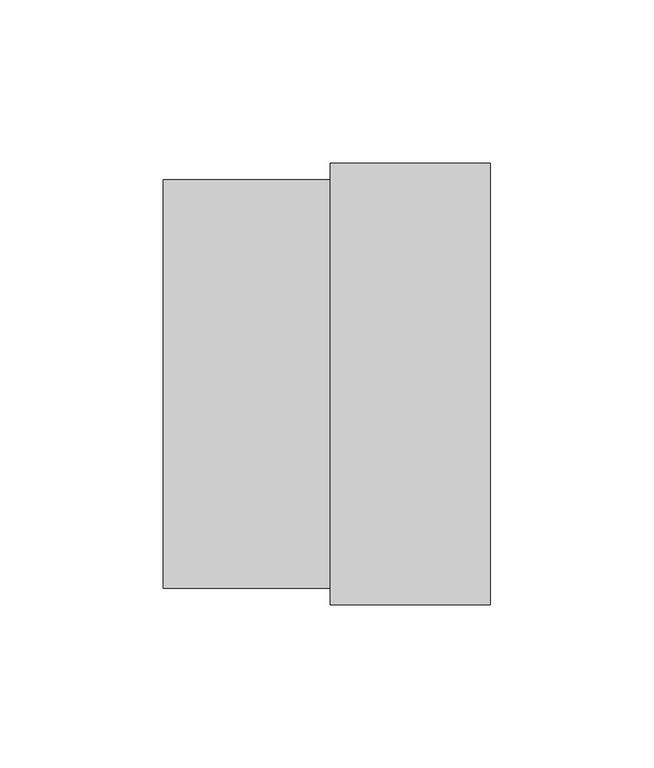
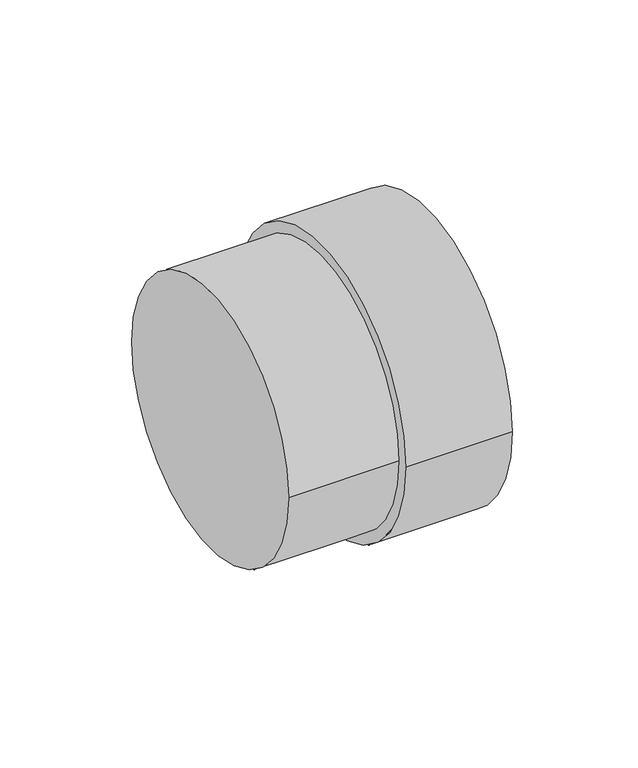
"""IFC4 building model written with IfcOpenShell, lengths in millimetres: pipe fitting geometry, NLRS_52_PIF_UN_PE overgang op gietijzer, met steunring_geb : DN125-135 / ø125-135."""

from ifc_helpers import new_model, si_unit, point, frame, origin, origin_2d, place, context, project, spatial, circle_curve, trimmed, segment, composite_curve, outline, extrude, source, transform, mapped, element, save


def pipe_fitting_a494353a(model_context):
    return source(origin(), model_context, "Body", "SweptSolid", [
        extrude(outline(composite_curve([segment(trimmed(circle_curve(origin_2d(), 67.5), [point((-67.5, 0.0))], [point((67.5, 0.0))], False, "CARTESIAN"), True, "CONTINUOUS"), segment(trimmed(circle_curve(origin_2d(), 67.5), [point((67.5, 0.0))], [point((-67.5, 0.0))], False, "CARTESIAN"), True, "CONTINUOUS")], self_intersect=False)), frame((0.0, 0.0, 0.0), z_axis=(1.0, 0.0, 0.0), x_axis=(0.0, 1.0, 0.0)), (0.0, 0.0, 1.0), 49.0),
        extrude(outline(composite_curve([segment(trimmed(circle_curve(origin_2d(), 62.5), [point((-62.5, 0.0))], [point((62.5, 0.0))], False, "CARTESIAN"), True, "CONTINUOUS"), segment(trimmed(circle_curve(origin_2d(), 62.5), [point((62.5, 0.0))], [point((-62.5, 0.0))], False, "CARTESIAN"), True, "CONTINUOUS")], self_intersect=False)), frame((-51.0, 0.0, 0.0), z_axis=(1.0, 0.0, 0.0), x_axis=(0.0, 1.0, 0.0)), (0.0, 0.0, 1.0), 51.0),
    ])


if __name__ == "__main__":
    model = new_model("IFC4")
    model_context = context("Model", 3, world=origin())
    ifc_project = project(units=[si_unit("LENGTHUNIT", "METRE", prefix="MILLI")], contexts=[model_context])
    site = spatial("IfcSite", under=ifc_project)
    building = spatial("IfcBuilding", under=site)
    placement = place(None, origin())
    pipe_fitting_shape = pipe_fitting_a494353a(model_context)
    element("IfcPipeFitting", 1, ObjectType="NLRS_52_PIF_UN_PE overgang op gietijzer, met steunring_geb : DN125-135 / ø125-135", at=placement, inside=building, context=model_context, shape_type="MappedRepresentation", body=[
        mapped(pipe_fitting_shape, transform((0.0, 0.0, 0.0), x_axis=(1.0, 0.0, 0.0), y_axis=(0.0, 1.0, 0.0), z_axis=(0.0, 0.0, 1.0))),
    ])
    save(model, "model.ifc")
